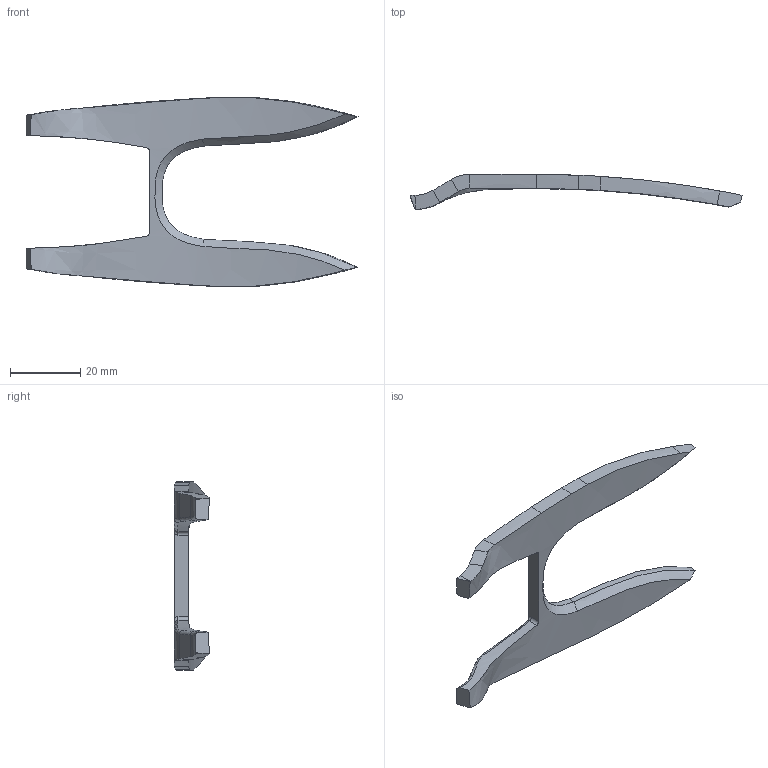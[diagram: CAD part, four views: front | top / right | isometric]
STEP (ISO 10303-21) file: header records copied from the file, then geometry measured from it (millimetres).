
FILE_DESCRIPTION(/* description */ (''),/* implementation_level */ '2;1');
FILE_NAME(/* name */ 'C:/Users/danie/Dropbox/OpenRC Formula 1 STL files/Dual Extrusion Files/Lid Upper.stp',/* time_stamp */ '2016-05-30T22:58:59+02:00',/* author */ (''),/* organization */ (''),/* preprocessor_version */ 'ST-DEVELOPER v16.5',/* originating_system */ 'Autodesk Translation Framework v5.0.0.3310',/* authorisation */ '');
FILE_SCHEMA (('AUTOMOTIVE_DESIGN { 1 0 10303 214 3 1 1 }'));
Length unit declared in the file: centimetre
Products named in the file (1): Lid Upper
Bounding box: 94.78 x 9.99 x 53.97 mm (x, y, z)
Volume: 8076.5 mm3; surface area: 5715 mm2
Topology: 1 solids, 1 shells, 54 faces, 134 edges, 82 vertices
Faces by surface type: bspline 33, cylinder 9, plane 8, torus 4
Entity records: 3602 total; most frequent: CARTESIAN_POINT 2477, ORIENTED_EDGE 268, DIRECTION 158, EDGE_CURVE 134, VERTEX_POINT 82, AXIS2_PLACEMENT_3D 60, B_SPLINE_CURVE_WITH_KNOTS 58, FACE_OUTER_BOUND 54
